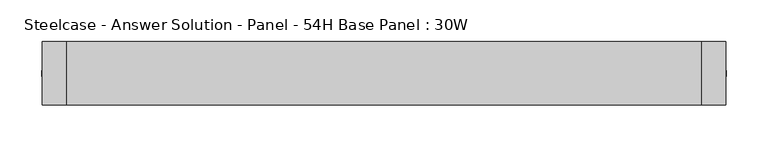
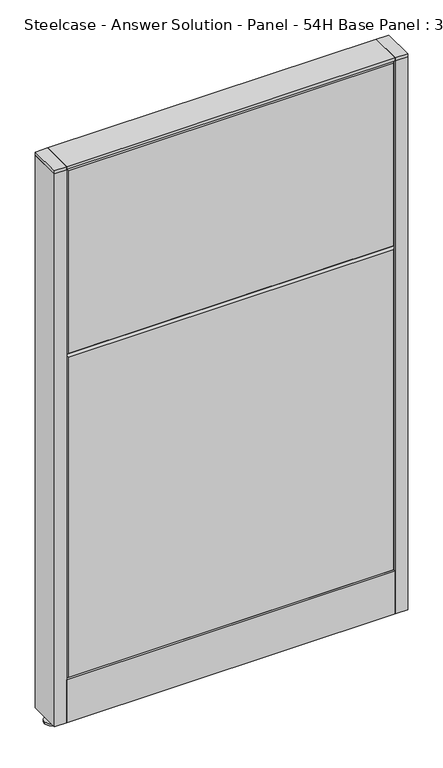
"""IFC4 building model written with IfcOpenShell, lengths in millimetres: furniture geometry, Steelcase - Answer Solution - Panel - 54H Base Panel : 30W."""

from ifc_helpers import new_model, si_unit, point, frame, frame_2d, origin, place, context, project, spatial, polyline, circle_curve, trimmed, segment, composite_curve, outline, extrude, faceted_brep, source, transform, mapped, element, save


def steelcase_answer_solution_panel_54h_base_panel_30w_ba95c0b5(model_context):
    return source(origin(), model_context, "Body", "SolidModel", [
        extrude(outline(composite_curve([segment(trimmed(circle_curve(frame_2d((395.224, 0.0320214)), 5.08), [point((400.304, 0.0320214))], [point((390.144, 0.0320214))], False, "CARTESIAN"), True, "CONTINUOUS"), segment(trimmed(circle_curve(frame_2d((395.224, 0.0320214)), 5.08), [point((390.144, 0.0320214))], [point((400.304, 0.0320214))], False, "CARTESIAN"), True, "CONTINUOUS")], self_intersect=False)), frame((0.0, 0.0, 5.0799671), z_axis=(0.0, 0.0, 1.0), x_axis=(1.0, 0.0, 0.0)), (0.0, 0.0, 1.0), 10.414),
        extrude(outline(composite_curve([segment(trimmed(circle_curve(frame_2d((395.224, 0.0320214)), 15.24), [point((410.464, 0.0320214))], [point((379.984, 0.0320214))], False, "CARTESIAN"), True, "CONTINUOUS"), segment(trimmed(circle_curve(frame_2d((395.224, 0.0320214)), 15.24), [point((379.984, 0.0320214))], [point((410.464, 0.0320214))], False, "CARTESIAN"), True, "CONTINUOUS")], self_intersect=False)), frame((0.0, 0.0, -3.29e-05), z_axis=(0.0, 0.0, 1.0), x_axis=(1.0, 0.0, 0.0)), (0.0, 0.0, 1.0), 5.08),
        extrude(outline(polyline([(409.575, 38.1320408), (409.575, -38.0679592), (381.0, -38.0679592), (381.0, 38.1320408), (409.575, 38.1320408)])), frame((0.0, 0.0, 1370.6348), z_axis=(0.0, 0.0, 1.0), x_axis=(1.0, 0.0, 0.0)), (0.0, 0.0, 1.0), 7.3151671),
        extrude(outline(polyline([(409.575, 38.1320408), (409.575, -38.0679592), (381.0, -38.0679592), (381.0, 38.1320408), (409.575, 38.1320408)])), frame((0.0, 0.0, 15.4939671), z_axis=(0.0, 0.0, 1.0), x_axis=(1.0, 0.0, 0.0)), (0.0, 0.0, 1.0), 1355.1408329),
        extrude(outline(composite_curve([segment(trimmed(circle_curve(frame_2d((-395.224, 0.0320214)), 5.08), [point((-400.304, 0.0320214))], [point((-390.144, 0.0320214))], False, "CARTESIAN"), True, "CONTINUOUS"), segment(trimmed(circle_curve(frame_2d((-395.224, 0.0320214)), 5.08), [point((-390.144, 0.0320214))], [point((-400.304, 0.0320214))], False, "CARTESIAN"), True, "CONTINUOUS")], self_intersect=False)), frame((0.0, 0.0, 5.0799671), z_axis=(0.0, 0.0, 1.0), x_axis=(1.0, 0.0, 0.0)), (0.0, 0.0, 1.0), 10.414),
        extrude(outline(composite_curve([segment(trimmed(circle_curve(frame_2d((-395.224, 0.0320214)), 15.24), [point((-410.464, 0.0320214))], [point((-379.984, 0.0320214))], False, "CARTESIAN"), True, "CONTINUOUS"), segment(trimmed(circle_curve(frame_2d((-395.224, 0.0320214)), 15.24), [point((-379.984, 0.0320214))], [point((-410.464, 0.0320214))], False, "CARTESIAN"), True, "CONTINUOUS")], self_intersect=False)), frame((0.0, 0.0, -3.29e-05), z_axis=(0.0, 0.0, 1.0), x_axis=(1.0, 0.0, 0.0)), (0.0, 0.0, 1.0), 5.08),
        extrude(outline(polyline([(-409.575, 38.1320408), (-381.0, 38.1320408), (-381.0, -38.0679592), (-409.575, -38.0679592), (-409.575, 38.1320408)])), frame((0.0, 0.0, 1370.6348), z_axis=(0.0, 0.0, 1.0), x_axis=(1.0, 0.0, 0.0)), (0.0, 0.0, 1.0), 7.3151671),
        extrude(outline(polyline([(-409.575, 38.1320408), (-381.0, 38.1320408), (-381.0, -38.0679592), (-409.575, -38.0679592), (-409.575, 38.1320408)])), frame((0.0, 0.0, 15.4939671), z_axis=(0.0, 0.0, 1.0), x_axis=(1.0, 0.0, 0.0)), (0.0, 0.0, 1.0), 1355.1408329),
        faceted_brep([(-376.174, 38.1635011, 1366.774), (376.174, 38.1635011, 1366.774), (376.174, 38.1635011, 919.226), (-376.174, 38.1635011, 919.226), (-381.0, 33.3375011, 1371.6), (-381.0, 33.3375011, 914.4), (381.0, 33.3375011, 914.4), (381.0, 33.3375011, 1371.6)], [[[0, 1, 2, 3]], [[4, 5, 6, 7]], [[4, 7, 1, 0]], [[7, 6, 2, 1]], [[6, 5, 3, 2]], [[5, 4, 0, 3]]]),
        faceted_brep([(-376.174, 38.1635011, 909.574), (376.174, 38.1635011, 909.574), (376.174, 38.1635011, 125.476), (-376.174, 38.1635011, 125.476), (-381.0, 33.3375011, 914.4), (-381.0, 33.3375011, 120.65), (381.0, 33.3375011, 120.65), (381.0, 33.3375011, 914.4)], [[[0, 1, 2, 3]], [[4, 5, 6, 7]], [[4, 7, 1, 0]], [[7, 6, 2, 1]], [[6, 5, 3, 2]], [[5, 4, 0, 3]]]),
        faceted_brep([(376.174, -38.1635011, 1366.774), (-376.174, -38.1635011, 1366.774), (-376.174, -38.1635011, 919.226), (376.174, -38.1635011, 919.226), (381.0, -33.3375011, 1371.6), (381.0, -33.3375011, 914.4), (-381.0, -33.3375011, 914.4), (-381.0, -33.3375011, 1371.6)], [[[0, 1, 2, 3]], [[4, 5, 6, 7]], [[4, 7, 1, 0]], [[7, 6, 2, 1]], [[6, 5, 3, 2]], [[5, 4, 0, 3]]]),
        faceted_brep([(376.174, -38.1635011, 909.574), (-376.174, -38.1635011, 909.574), (-376.174, -38.1635011, 125.476), (376.174, -38.1635011, 125.476), (381.0, -33.3375011, 914.4), (381.0, -33.3375011, 120.65), (-381.0, -33.3375011, 120.65), (-381.0, -33.3375011, 914.4)], [[[0, 1, 2, 3]], [[4, 5, 6, 7]], [[4, 7, 1, 0]], [[7, 6, 2, 1]], [[6, 5, 3, 2]], [[5, 4, 0, 3]]]),
        extrude(outline(polyline([(381.0, 38.1000194), (381.0, -38.1000194), (-381.0, -38.1000194), (-381.0, 38.1000194), (381.0, 38.1000194)])), frame((0.0, 0.0, 1371.6), z_axis=(0.0, 0.0, 1.0), x_axis=(1.0, 0.0, 0.0)), (0.0, 0.0, 1.0), 6.35),
        extrude(outline(polyline([(25.4000011, 119.8575157), (25.4000011, 120.65), (38.1000194, 120.65), (38.1000194, 15.494), (37.3075215, 15.494), (37.3075215, 119.8575157), (25.4000011, 119.8575157)])), frame((-381.0, 0.0, 0.0), z_axis=(1.0, 0.0, 0.0), x_axis=(0.0, 1.0, 0.0)), (0.0, 0.0, 1.0), 762.0),
        extrude(outline(polyline([(-25.4000011, 119.8575157), (-37.3075215, 119.8575157), (-37.3075215, 15.494), (-38.1000194, 15.494), (-38.1000194, 120.65), (-25.4000011, 120.65), (-25.4000011, 119.8575157)])), frame((-381.0, 0.0, 0.0), z_axis=(1.0, 0.0, 0.0), x_axis=(0.0, 1.0, 0.0)), (0.0, 0.0, 1.0), 762.0),
    ])


if __name__ == "__main__":
    model = new_model("IFC4")
    model_context = context("Model", 3, world=origin())
    ifc_project = project(units=[si_unit("LENGTHUNIT", "METRE", prefix="MILLI")], contexts=[model_context])
    site = spatial("IfcSite", under=ifc_project)
    building = spatial("IfcBuilding", under=site)
    placement = place(None, origin())
    steelcase_answer_solution_panel_54h_base_panel_30w_shape = steelcase_answer_solution_panel_54h_base_panel_30w_ba95c0b5(model_context)
    element("IfcFurniture", 1, ObjectType="Steelcase - Answer Solution - Panel - 54H Base Panel : 30W", at=placement, inside=building, context=model_context, shape_type="MappedRepresentation", body=[
        mapped(steelcase_answer_solution_panel_54h_base_panel_30w_shape, transform((0.0, 0.0, 0.0), x_axis=(1.0, 0.0, 0.0), y_axis=(0.0, 1.0, 0.0), z_axis=(0.0, 0.0, 1.0))),
    ])
    save(model, "model.ifc")
